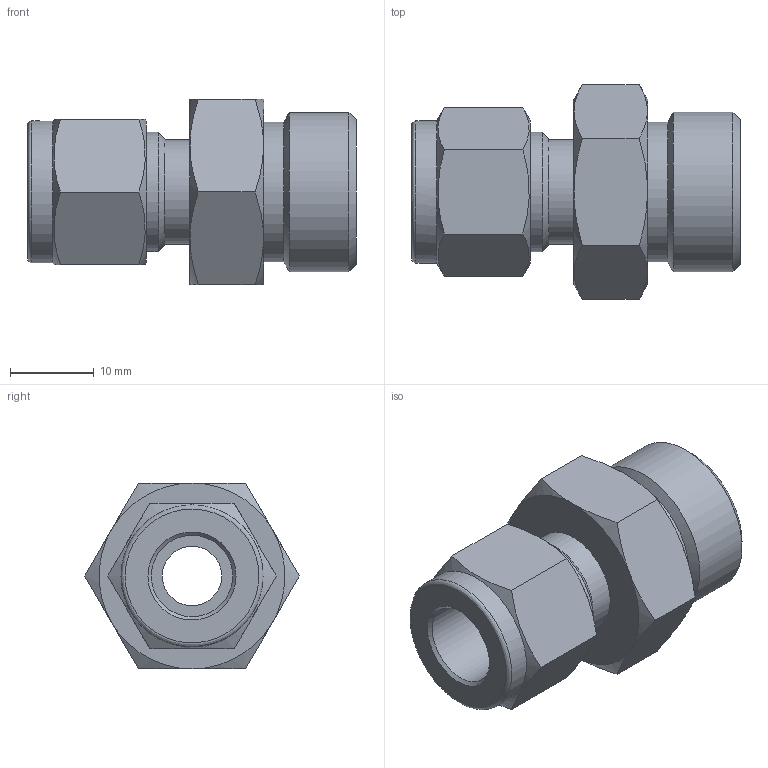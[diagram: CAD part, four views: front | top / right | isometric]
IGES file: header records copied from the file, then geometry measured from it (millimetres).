
Global section: file name: SSMC-6-8U; native system: Autodesk Inventor 2016; preprocessor: unknown; author: DESIGNPC2; date: 20160123.140816; units: millimetre
Bounding box: 39.31 x 25.66 x 22.23 mm (x, y, z)
Volume: 8872.1 mm3; surface area: 4405.6 mm2
Topology: 1 solids, 1 shells, 46 faces, 116 edges, 77 vertices
Faces by surface type: bspline 46
